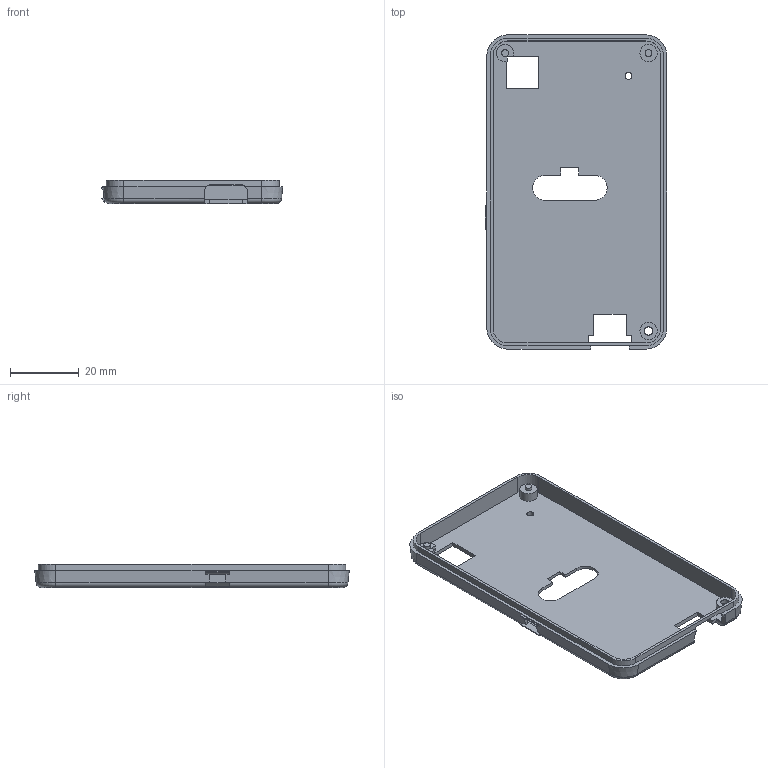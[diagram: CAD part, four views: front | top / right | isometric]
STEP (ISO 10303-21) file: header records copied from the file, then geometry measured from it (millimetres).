
FILE_DESCRIPTION(('Open CASCADE Model'),'2;1');
FILE_NAME('Open CASCADE Shape Model','2026-10-31T23:32:29',('Author'),( 'Open CASCADE'),'Open CASCADE STEP processor 7.7','Open CASCADE 7.7' ,'Unknown');
FILE_SCHEMA(('AUTOMOTIVE_DESIGN { 1 0 10303 214 1 1 1 1 }'));
Length unit declared in the file: millimetre
Products named in the file (1): SOLID
Bounding box: 52.68 x 91.2 x 6.7 mm (x, y, z)
Volume: 6680.7 mm3; surface area: 12097.8 mm2
Topology: 1 solids, 1 shells, 112 faces, 306 edges, 200 vertices
Faces by surface type: plane 74, cylinder 29, cone 5, torus 4
Full cylindrical faces by diameter (mm): 2 x3, 2.4 x1, 4.1 x1, 5 x2
Entity records: 7539 total; most frequent: CARTESIAN_POINT 1726, DIRECTION 983, ORIENTED_EDGE 612, PCURVE 612, DEFINITIONAL_REPRESENTATION 612, LINE 575, VECTOR 575, EDGE_CURVE 306
